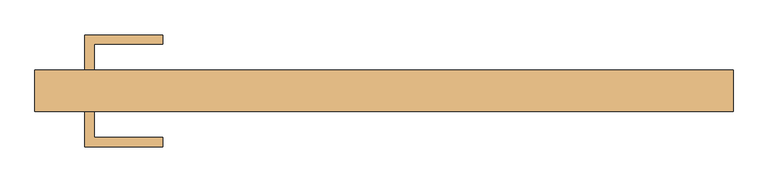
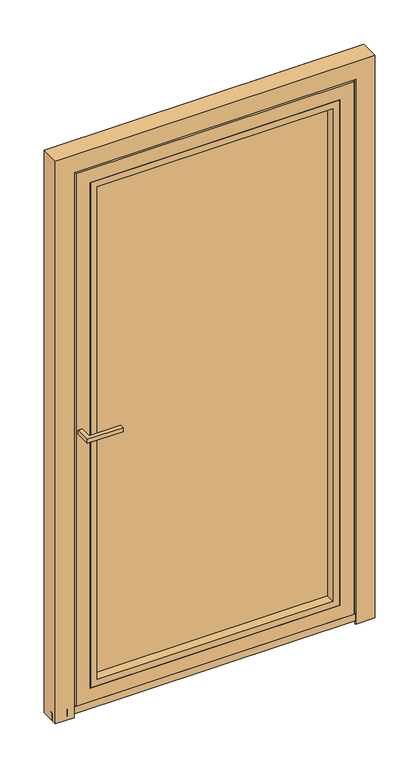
"""IFC4 building model written with IfcOpenShell, lengths in millimetres: door geometry, Reynaers_CS 77_Door_Miter_Outward Opening_Single Vent : Reynaers_CS 77_Door_Miter_Outward Opening_Single Vent."""

from ifc_helpers import new_model, si_unit, frame, origin, place, context, project, spatial, polyline, outline, extrude, faceted_brep, source, transform, mapped, element, save


def door_79985621(model_context):
    return source(origin(), model_context, "Body", "SolidModel", [
        extrude(outline(polyline([(-488.5, 80.0), (-488.5, 137.5), (-361.0, 137.5), (-361.0, 122.5), (-473.5, 122.5), (-473.5, 80.0), (-488.5, 80.0)])), frame((0.0, 0.0, 1062.5), z_axis=(0.0, 0.0, 1.0), x_axis=(1.0, 0.0, 0.0)), (0.0, 0.0, 1.0), 15.0),
        extrude(outline(polyline([(-488.5, 12.0), (-473.5, 12.0), (-473.5, -30.5), (-361.0, -30.5), (-361.0, -45.5), (-488.5, -45.5), (-488.5, 12.0)])), frame((0.0, 0.0, 1062.5), z_axis=(0.0, 0.0, 1.0), x_axis=(1.0, 0.0, 0.0)), (0.0, 0.0, 1.0), 15.0),
        extrude(outline(polyline([(439.0, 45.0), (-439.0, 45.0), (-439.0, 72.0), (439.0, 72.0), (439.0, 45.0)])), frame((0.0, 0.0, 93.5), z_axis=(0.0, 0.0, 1.0), x_axis=(1.0, 0.0, 0.0)), (0.0, 0.0, 1.0), 1895.5),
        faceted_brep([(445.0, 12.0, 1995.0), (445.0, 72.0, 1995.0), (445.0, 72.0, 91.0), (445.0, 12.0, 91.0), (-445.0, 72.0, 1995.0), (-445.0, 72.0, 91.0), (420.0, 72.0, 1970.0), (420.0, 72.0, 116.0), (-420.0, 72.0, 116.0), (-420.0, 72.0, 1970.0), (-445.0, 12.0, 91.0), (-496.0, 12.0, 2046.0), (-496.0, 12.0, 40.0), (496.0, 12.0, 40.0), (496.0, 12.0, 2046.0), (-445.0, 12.0, 1995.0), (496.0, 21.8, 2046.0), (496.0, 21.8, 40.0), (-496.0, 21.8, 40.0), (-507.0, 21.8, 2057.0), (-507.0, 21.8, 29.0), (507.0, 21.8, 29.0), (507.0, 21.8, 2057.0), (-496.0, 21.8, 2046.0), (-507.0, 76.2, 29.0), (-507.0, 76.2, 2057.0), (507.0, 76.2, 29.0), (507.0, 76.2, 2057.0), (-522.0, 76.2, 2072.0), (-522.0, 76.2, 14.0), (522.0, 76.2, 14.0), (522.0, 76.2, 2072.0), (522.0, 80.0, 2072.0), (522.0, 80.0, 14.0), (-522.0, 80.0, 14.0), (-522.0, 80.0, 2072.0), (-420.0, 80.0, 1970.0), (-420.0, 80.0, 116.0), (420.0, 80.0, 116.0), (420.0, 80.0, 1970.0)], [[[0, 1, 2, 3]], [[4, 5, 2, 1], [6, 7, 8, 9]], [[3, 2, 5, 10]], [[11, 12, 13, 14], [0, 3, 10, 15]], [[16, 14, 13, 17]], [[17, 13, 12, 18]], [[19, 20, 21, 22], [16, 17, 18, 23]], [[10, 5, 4, 15]], [[18, 12, 11, 23]], [[24, 20, 19, 25]], [[26, 21, 20, 24]], [[27, 22, 21, 26]], [[28, 29, 30, 31], [27, 26, 24, 25]], [[32, 31, 30, 33]], [[33, 30, 29, 34]], [[32, 33, 34, 35], [36, 37, 38, 39]], [[6, 39, 38, 7]], [[7, 38, 37, 8]], [[34, 29, 28, 35]], [[8, 37, 36, 9]], [[15, 4, 1, 0]], [[23, 11, 14, 16]], [[25, 19, 22, 27]], [[35, 28, 31, 32]], [[9, 36, 39, 6]]]),
        faceted_brep([(420.0, 12.0, 1970.0), (420.0, 45.0, 1970.0), (420.0, 45.0, 116.0), (420.0, 12.0, 116.0), (444.0, 45.0, 1994.0), (444.0, 45.0, 92.0), (-444.0, 45.0, 92.0), (-444.0, 45.0, 1994.0), (-420.0, 45.0, 1970.0), (-420.0, 45.0, 116.0), (-420.0, 12.0, 116.0), (-444.0, 12.0, 1994.0), (-444.0, 12.0, 92.0), (444.0, 12.0, 92.0), (444.0, 12.0, 1994.0), (-420.0, 12.0, 1970.0)], [[[0, 1, 2, 3]], [[4, 5, 6, 7], [8, 9, 2, 1]], [[3, 2, 9, 10]], [[11, 12, 13, 14], [0, 3, 10, 15]], [[4, 14, 13, 5]], [[5, 13, 12, 6]], [[10, 9, 8, 15]], [[6, 12, 11, 7]], [[15, 8, 1, 0]], [[7, 11, 14, 4]]]),
        faceted_brep([(-528.0, 70.2, 0.0), (-517.0, 70.2, 0.0), (-517.0, 15.8, 0.0), (-502.0, 15.8, 0.0), (-502.0, 12.0, 0.0), (-570.0, 12.0, 0.0), (-570.0, 80.0, 0.0), (-528.0, 80.0, 0.0), (-528.0, 70.2, 2078.0), (528.0, 70.2, 2078.0), (528.0, 70.2, 0.0), (517.0, 70.2, 0.0), (517.0, 70.2, 2067.0), (-517.0, 70.2, 2067.0), (-517.0, 15.8, 2067.0), (517.0, 15.8, 2067.0), (517.0, 15.8, 0.0), (502.0, 15.8, 0.0), (502.0, 15.8, 2052.0), (-502.0, 15.8, 2052.0), (-502.0, 12.0, 2052.0), (502.0, 12.0, 2052.0), (502.0, 12.0, 0.0), (570.0, 12.0, 0.0), (570.0, 12.0, 2120.0), (-570.0, 12.0, 2120.0), (-570.0, 80.0, 2120.0), (570.0, 80.0, 2120.0), (570.0, 80.0, 0.0), (528.0, 80.0, 0.0), (528.0, 80.0, 2078.0), (-528.0, 80.0, 2078.0)], [[[0, 1, 2, 3, 4, 5, 6, 7]], [[1, 0, 8, 9, 10, 11, 12, 13]], [[2, 1, 13, 14]], [[3, 2, 14, 15, 16, 17, 18, 19]], [[4, 3, 19, 20]], [[5, 4, 20, 21, 22, 23, 24, 25]], [[6, 5, 25, 26]], [[7, 6, 26, 27, 28, 29, 30, 31]], [[0, 7, 31, 8]], [[9, 30, 29, 10]], [[10, 29, 28, 23, 22, 17, 16, 11]], [[15, 12, 11, 16]], [[27, 24, 23, 28]], [[21, 18, 17, 22]], [[26, 25, 24, 27]], [[8, 31, 30, 9]], [[14, 13, 12, 15]], [[20, 19, 18, 21]]]),
        extrude(outline(polyline([(-570.0, 30.0), (-570.0, 45.0), (570.0, 45.0), (570.0, 30.0), (-570.0, 30.0)])), frame((0.0, 0.0, 1.0), z_axis=(0.0, 0.0, 1.0), x_axis=(1.0, 0.0, 0.0)), (0.0, 0.0, 1.0), 28.0),
        extrude(outline(polyline([(528.0, 15.8), (528.0, 12.0), (-528.0, 12.0), (-528.0, 15.8), (528.0, 15.8)])), frame((0.0, 0.0, 14.0), z_axis=(0.0, 0.0, 1.0), x_axis=(1.0, 0.0, 0.0)), (0.0, 0.0, 1.0), 26.0),
    ])


if __name__ == "__main__":
    model = new_model("IFC4")
    model_context = context("Model", 3, world=origin())
    ifc_project = project(units=[si_unit("LENGTHUNIT", "METRE", prefix="MILLI")], contexts=[model_context])
    site = spatial("IfcSite", under=ifc_project)
    building = spatial("IfcBuilding", under=site)
    placement = place(None, origin())
    door_shape = door_79985621(model_context)
    element("IfcDoor", 1, ObjectType="Reynaers_CS 77_Door_Miter_Outward Opening_Single Vent : Reynaers_CS 77_Door_Miter_Outward Opening_Single Vent", at=placement, inside=building, context=model_context, shape_type="MappedRepresentation", body=[
        mapped(door_shape, transform((0.0, 0.0, 0.0), x_axis=(1.0, 0.0, 0.0), y_axis=(0.0, 1.0, 0.0), z_axis=(0.0, 0.0, 1.0))),
    ])
    save(model, "model.ifc")
